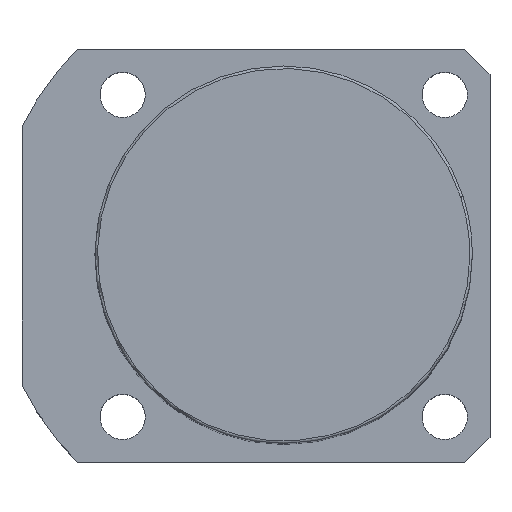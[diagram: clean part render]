
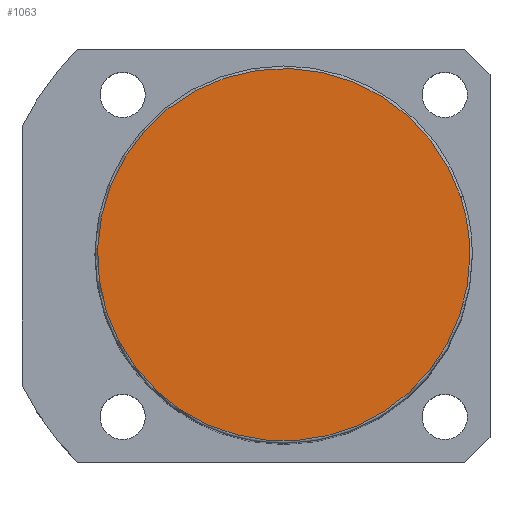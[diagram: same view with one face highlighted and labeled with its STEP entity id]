
A CAD part, top view. The second image highlights one B-rep face of the part: STEP entity #1063.
In plain terms, the highlighted planar face has unit normal (0, 0, 1).
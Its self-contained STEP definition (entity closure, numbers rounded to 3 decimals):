
#1029=CARTESIAN_POINT('',(37.0,0.0,148.0));
#1030=VERTEX_POINT('',#1029);
#1031=CARTESIAN_POINT('',(35.189,11.434,148.0));
#1032=VERTEX_POINT('',#1031);
#1033=CARTESIAN_POINT('',(0.0,0.0,148.0));
#1034=DIRECTION('',(0.0,0.0,1.0));
#1035=DIRECTION('',(1.0,0.0,0.0));
#1036=AXIS2_PLACEMENT_3D('',#1033,#1034,#1035);
#1037=CIRCLE('',#1036,37.0);
#1038=EDGE_CURVE('no 1656',#1030,#1032,#1037,.T.);
#1039=ORIENTED_EDGE('',*,*,#1038,.T.);
#1040=CARTESIAN_POINT('',(-35.189,-11.434,148.0));
#1041=VERTEX_POINT('',#1040);
#1042=CARTESIAN_POINT('',(0.0,0.0,148.0));
#1043=DIRECTION('',(0.0,0.0,1.0));
#1044=DIRECTION('',(1.0,0.0,0.0));
#1045=AXIS2_PLACEMENT_3D('',#1042,#1043,#1044);
#1046=CIRCLE('',#1045,37.0);
#1047=EDGE_CURVE('no 1662',#1032,#1041,#1046,.T.);
#1048=ORIENTED_EDGE('',*,*,#1047,.T.);
#1049=CARTESIAN_POINT('',(0.0,0.0,148.0));
#1050=DIRECTION('',(0.0,0.0,1.0));
#1051=DIRECTION('',(1.0,0.0,0.0));
#1052=AXIS2_PLACEMENT_3D('',#1049,#1050,#1051);
#1053=CIRCLE('',#1052,37.0);
#1054=EDGE_CURVE('no 1666',#1041,#1030,#1053,.T.);
#1055=ORIENTED_EDGE('',*,*,#1054,.T.);
#1056=EDGE_LOOP('',(#1039,#1048,#1055));
#1057=FACE_OUTER_BOUND('',#1056,.T.);
#1058=CARTESIAN_POINT('',(0.0,0.0,148.0));
#1059=DIRECTION('',(0.0,0.0,1.0));
#1060=DIRECTION('',(1.0,0.0,0.0));
#1061=AXIS2_PLACEMENT_3D('',#1058,#1059,#1060);
#1062=PLANE('',#1061);
#1063=ADVANCED_FACE('no 1647',(#1057),#1062,.T.);
